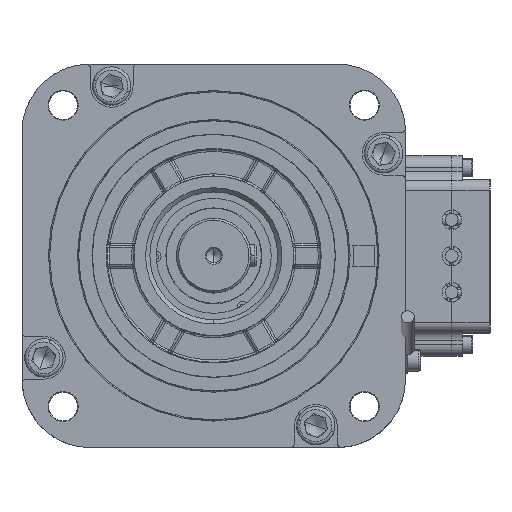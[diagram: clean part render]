
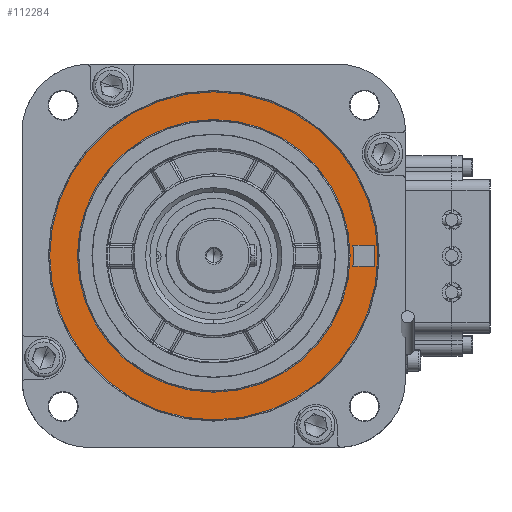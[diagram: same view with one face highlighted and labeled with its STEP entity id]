
A CAD part, top view. The second image highlights one B-rep face of the part: STEP entity #112284.
In plain terms, the highlighted planar face has unit normal (0, 0, 1).
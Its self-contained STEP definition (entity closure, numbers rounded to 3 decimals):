
#2970 = CIRCLE ( 'NONE', #75525, 75.5 ) ;
#3544 = VERTEX_POINT ( 'NONE', #20863 ) ;
#4047 = CARTESIAN_POINT ( 'NONE',  ( 0., 0., 109. ) ) ;
#7546 = CIRCLE ( 'NONE', #122505, 77. ) ;
#10506 = DIRECTION ( 'NONE',  ( 0., 0., 1. ) ) ;
#15769 = CARTESIAN_POINT ( 'NONE',  ( 75.334, 5., 109. ) ) ;
#17070 = ORIENTED_EDGE ( 'NONE', *, *, #98306, .F. ) ;
#20863 = CARTESIAN_POINT ( 'NONE',  ( 75.334, -5., 109. ) ) ;
#21417 = DIRECTION ( 'NONE',  ( -1., 0., 0. ) ) ;
#22881 = DIRECTION ( 'NONE',  ( 0., 0., -1. ) ) ;
#26750 = DIRECTION ( 'NONE',  ( 0., 1., 0. ) ) ;
#27649 = CARTESIAN_POINT ( 'NONE',  ( 0., 0., 109. ) ) ;
#30639 = ORIENTED_EDGE ( 'NONE', *, *, #80501, .F. ) ;
#33987 = ORIENTED_EDGE ( 'NONE', *, *, #136117, .F. ) ;
#34459 = VERTEX_POINT ( 'NONE', #140808 ) ;
#43371 = DIRECTION ( 'NONE',  ( 0., -1., 0. ) ) ;
#46952 = ORIENTED_EDGE ( 'NONE', *, *, #134942, .T. ) ;
#51336 = CARTESIAN_POINT ( 'NONE',  ( 0., 0., 109. ) ) ;
#52196 = CARTESIAN_POINT ( 'NONE',  ( 0., 0., 109. ) ) ;
#53311 = EDGE_CURVE ( 'NONE', #172171, #112635, #100294, .T. ) ;
#56463 = CARTESIAN_POINT ( 'NONE',  ( 0., 77., 109. ) ) ;
#57607 = PLANE ( 'NONE',  #141676 ) ;
#59729 = DIRECTION ( 'NONE',  ( 1., 0., 0. ) ) ;
#60081 = EDGE_LOOP ( 'NONE', ( #33987, #30639, #178906, #17070 ) ) ;
#61541 = LINE ( 'NONE', #132661, #152744 ) ;
#61743 = VERTEX_POINT ( 'NONE', #157294 ) ;
#63320 = VERTEX_POINT ( 'NONE', #15769 ) ;
#68100 = EDGE_CURVE ( 'NONE', #34459, #129730, #147503, .T. ) ;
#71340 = CIRCLE ( 'NONE', #131978, 65.5 ) ;
#72429 = DIRECTION ( 'NONE',  ( 0., -1., 0. ) ) ;
#72525 = ORIENTED_EDGE ( 'NONE', *, *, #103839, .T. ) ;
#74276 = CARTESIAN_POINT ( 'NONE',  ( 0., 0., 109. ) ) ;
#75525 = AXIS2_PLACEMENT_3D ( 'NONE', #4047, #160384, #164076 ) ;
#80501 = EDGE_CURVE ( 'NONE', #63320, #61743, #179666, .T. ) ;
#81068 = DIRECTION ( 'NONE',  ( 0., 1., 0. ) ) ;
#86012 = FACE_BOUND ( 'NONE', #60081, .T. ) ;
#90199 = EDGE_CURVE ( 'NONE', #3544, #63320, #2970, .T. ) ;
#93006 = ORIENTED_EDGE ( 'NONE', *, *, #53311, .T. ) ;
#96238 = DIRECTION ( 'NONE',  ( 0., 0., -1. ) ) ;
#97058 = CARTESIAN_POINT ( 'NONE',  ( 0., -77., 109. ) ) ;
#98306 = EDGE_CURVE ( 'NONE', #170444, #3544, #61541, .T. ) ;
#100294 = CIRCLE ( 'NONE', #154769, 77. ) ;
#103839 = EDGE_CURVE ( 'NONE', #129730, #34459, #168968, .T. ) ;
#108184 = AXIS2_PLACEMENT_3D ( 'NONE', #51336, #22881, #109107 ) ;
#109107 = DIRECTION ( 'NONE',  ( 0., 1., 0. ) ) ;
#111515 = AXIS2_PLACEMENT_3D ( 'NONE', #156816, #96238, #81068 ) ;
#112284 = ADVANCED_FACE ( 'NONE', ( #129641, #86012, #156192 ), #57607, .F. ) ;
#112635 = VERTEX_POINT ( 'NONE', #56463 ) ;
#117200 = EDGE_LOOP ( 'NONE', ( #72525, #155200 ) ) ;
#122505 = AXIS2_PLACEMENT_3D ( 'NONE', #52196, #10506, #123306 ) ;
#123306 = DIRECTION ( 'NONE',  ( 0., 1., 0. ) ) ;
#129641 = FACE_BOUND ( 'NONE', #117200, .T. ) ;
#129730 = VERTEX_POINT ( 'NONE', #133344 ) ;
#131978 = AXIS2_PLACEMENT_3D ( 'NONE', #74276, #132136, #72429 ) ;
#132136 = DIRECTION ( 'NONE',  ( 0., 0., -1. ) ) ;
#132661 = CARTESIAN_POINT ( 'NONE',  ( 75.334, -5., 109. ) ) ;
#133344 = CARTESIAN_POINT ( 'NONE',  ( 0., 64., 109. ) ) ;
#134942 = EDGE_CURVE ( 'NONE', #112635, #172171, #7546, .T. ) ;
#136117 = EDGE_CURVE ( 'NONE', #61743, #170444, #71340, .T. ) ;
#137008 = CARTESIAN_POINT ( 'NONE',  ( 75.334, 5., 109. ) ) ;
#140808 = CARTESIAN_POINT ( 'NONE',  ( 0., -64., 109. ) ) ;
#141676 = AXIS2_PLACEMENT_3D ( 'NONE', #175074, #173180, #43371 ) ;
#143784 = VECTOR ( 'NONE', #21417, 1000. ) ;
#147503 = CIRCLE ( 'NONE', #108184, 64. ) ;
#152744 = VECTOR ( 'NONE', #59729, 1000. ) ;
#154769 = AXIS2_PLACEMENT_3D ( 'NONE', #27649, #156545, #26750 ) ;
#155200 = ORIENTED_EDGE ( 'NONE', *, *, #68100, .T. ) ;
#156192 = FACE_OUTER_BOUND ( 'NONE', #176448, .T. ) ;
#156545 = DIRECTION ( 'NONE',  ( 0., 0., 1. ) ) ;
#156816 = CARTESIAN_POINT ( 'NONE',  ( 0., 0., 109. ) ) ;
#157294 = CARTESIAN_POINT ( 'NONE',  ( 65.309, 5., 109. ) ) ;
#157501 = CARTESIAN_POINT ( 'NONE',  ( 65.309, -5., 109. ) ) ;
#160384 = DIRECTION ( 'NONE',  ( 0., 0., 1. ) ) ;
#164076 = DIRECTION ( 'NONE',  ( 0., -1., 0. ) ) ;
#168968 = CIRCLE ( 'NONE', #111515, 64. ) ;
#170444 = VERTEX_POINT ( 'NONE', #157501 ) ;
#172171 = VERTEX_POINT ( 'NONE', #97058 ) ;
#173180 = DIRECTION ( 'NONE',  ( 0., 0., -1. ) ) ;
#175074 = CARTESIAN_POINT ( 'NONE',  ( 77.5, 0., 109. ) ) ;
#176448 = EDGE_LOOP ( 'NONE', ( #46952, #93006 ) ) ;
#178906 = ORIENTED_EDGE ( 'NONE', *, *, #90199, .F. ) ;
#179666 = LINE ( 'NONE', #137008, #143784 ) ;
